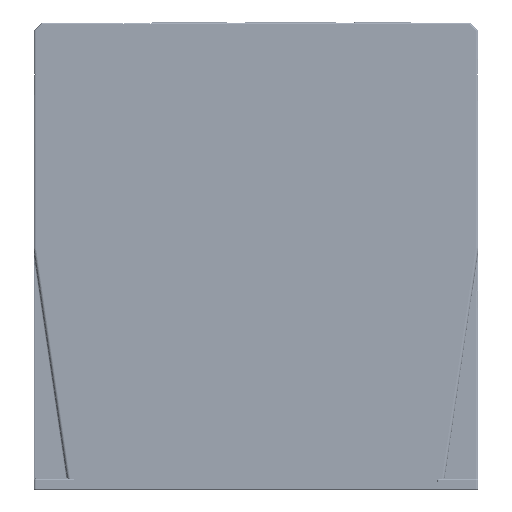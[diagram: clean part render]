
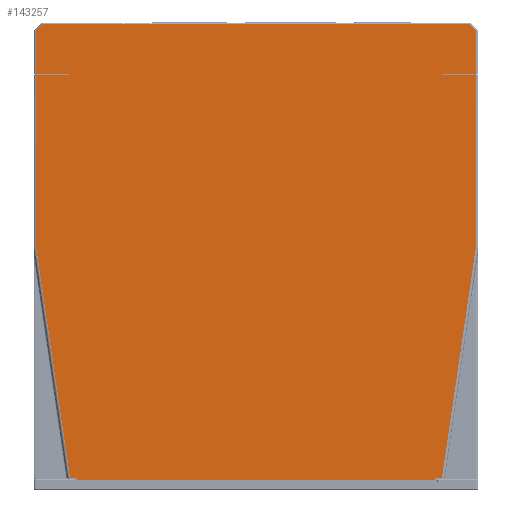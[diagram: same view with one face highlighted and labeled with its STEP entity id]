
A CAD part, left-side view. The second image highlights one B-rep face of the part: STEP entity #143257.
In plain terms, the highlighted planar face has unit normal (-1, 0, 0).
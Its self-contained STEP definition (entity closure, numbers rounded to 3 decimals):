
#1703=CARTESIAN_POINT('',(-167.072,214.156,50.608));
#1704=VERTEX_POINT('',#1703);
#1713=CARTESIAN_POINT('',(-167.072,214.156,51.108));
#1714=VERTEX_POINT('',#1713);
#1715=CARTESIAN_POINT('',(-167.072,214.156,51.108));
#1716=DIRECTION('',(0.0,0.0,-1.0));
#1717=VECTOR('',#1716,0.5);
#1718=LINE('',#1715,#1717);
#1719=EDGE_CURVE('',#1714,#1704,#1718,.T.);
#2995=CARTESIAN_POINT('',(-167.072,78.446,50.608));
#2996=VERTEX_POINT('',#2995);
#3011=CARTESIAN_POINT('',(-167.072,78.446,51.108));
#3012=VERTEX_POINT('',#3011);
#3019=CARTESIAN_POINT('',(-167.072,78.446,51.108));
#3020=DIRECTION('',(0.0,0.0,-1.0));
#3021=VECTOR('',#3020,0.5);
#3022=LINE('',#3019,#3021);
#3023=EDGE_CURVE('',#3012,#2996,#3022,.T.);
#9160=CARTESIAN_POINT('',(-167.072,226.156,51.108));
#9161=VERTEX_POINT('',#9160);
#9162=CARTESIAN_POINT('',(-167.072,226.156,51.108));
#9163=DIRECTION('',(0.0,-1.0,0.0));
#9164=VECTOR('',#9163,12.);
#9165=LINE('',#9162,#9164);
#9166=EDGE_CURVE('',#9161,#1714,#9165,.T.);
#9327=CARTESIAN_POINT('',(-167.072,66.156,51.108));
#9328=VERTEX_POINT('',#9327);
#9336=CARTESIAN_POINT('',(-167.072,78.446,51.108));
#9337=DIRECTION('',(0.0,-1.0,0.0));
#9338=VECTOR('',#9337,12.29);
#9339=LINE('',#9336,#9338);
#9340=EDGE_CURVE('',#3012,#9328,#9339,.T.);
#124274=CARTESIAN_POINT('',(-167.072,68.363,69.108));
#124275=VERTEX_POINT('',#124274);
#124283=CARTESIAN_POINT('',(-167.072,66.156,66.901));
#124284=VERTEX_POINT('',#124283);
#124285=CARTESIAN_POINT('',(-167.072,68.363,69.108));
#124286=DIRECTION('',(0.0,-0.707,-0.707));
#124287=VECTOR('',#124286,3.121);
#124288=LINE('',#124285,#124287);
#124289=EDGE_CURVE('',#124275,#124284,#124288,.T.);
#124586=CARTESIAN_POINT('',(-167.072,184.406,69.108));
#124587=VERTEX_POINT('',#124586);
#124595=CARTESIAN_POINT('',(-167.072,184.406,69.108));
#124596=DIRECTION('',(0.0,-1.0,0.0));
#124597=VECTOR('',#124596,116.043);
#124598=LINE('',#124595,#124597);
#124599=EDGE_CURVE('',#124587,#124275,#124598,.T.);
#127047=CARTESIAN_POINT('',(-167.072,194.051,69.108));
#127048=VERTEX_POINT('',#127047);
#127072=CARTESIAN_POINT('',(-167.072,184.906,69.108));
#127073=VERTEX_POINT('',#127072);
#127074=CARTESIAN_POINT('',(-167.072,194.051,69.108));
#127075=DIRECTION('',(0.0,-1.0,0.0));
#127076=VECTOR('',#127075,9.145);
#127077=LINE('',#127074,#127076);
#127078=EDGE_CURVE('',#127048,#127073,#127077,.T.);
#127540=CARTESIAN_POINT('',(-167.072,223.949,69.108));
#127541=VERTEX_POINT('',#127540);
#127673=CARTESIAN_POINT('',(-167.072,226.156,66.901));
#127674=VERTEX_POINT('',#127673);
#127762=CARTESIAN_POINT('',(-167.072,226.156,66.901));
#127763=DIRECTION('',(0.0,-0.707,0.707));
#127764=VECTOR('',#127763,3.121);
#127765=LINE('',#127762,#127764);
#127766=EDGE_CURVE('',#127674,#127541,#127765,.T.);
#127776=CARTESIAN_POINT('',(-167.072,194.656,69.108));
#127777=VERTEX_POINT('',#127776);
#127794=CARTESIAN_POINT('',(-167.072,223.949,69.108));
#127795=DIRECTION('',(0.0,-1.0,0.0));
#127796=VECTOR('',#127795,29.293);
#127797=LINE('',#127794,#127796);
#127798=EDGE_CURVE('',#127541,#127777,#127797,.T.);
#139711=CARTESIAN_POINT('',(-167.072,194.051,69.108));
#139712=DIRECTION('',(0.0,1.0,0.0));
#139713=VECTOR('',#139712,0.605);
#139714=LINE('',#139711,#139713);
#139715=EDGE_CURVE('',#127048,#127777,#139714,.T.);
#139743=CARTESIAN_POINT('',(-167.072,184.406,69.108));
#139744=DIRECTION('',(0.0,1.0,0.0));
#139745=VECTOR('',#139744,0.5);
#139746=LINE('',#139743,#139745);
#139747=EDGE_CURVE('',#124587,#127073,#139746,.T.);
#140286=CARTESIAN_POINT('',(-167.072,226.156,51.108));
#140287=DIRECTION('',(0.0,0.0,1.0));
#140288=VECTOR('',#140287,15.793);
#140289=LINE('',#140286,#140288);
#140290=EDGE_CURVE('',#9161,#127674,#140289,.T.);
#140301=CARTESIAN_POINT('',(-167.072,66.156,66.901));
#140302=DIRECTION('',(0.0,0.0,-1.0));
#140303=VECTOR('',#140302,15.793);
#140304=LINE('',#140301,#140303);
#140305=EDGE_CURVE('',#124284,#9328,#140304,.T.);
#143097=CARTESIAN_POINT('',(-167.072,226.156,50.608));
#143098=VERTEX_POINT('',#143097);
#143106=CARTESIAN_POINT('',(-167.072,226.156,50.608));
#143107=DIRECTION('',(0.0,-1.0,0.0));
#143108=VECTOR('',#143107,12.);
#143109=LINE('',#143106,#143108);
#143110=EDGE_CURVE('',#143098,#1704,#143109,.T.);
#143158=CARTESIAN_POINT('',(-167.072,146.156,-23.392));
#143159=DIRECTION('',(-1.0,0.0,0.0));
#143160=DIRECTION('',(0.0,-1.0,0.0));
#143161=AXIS2_PLACEMENT_3D('',#143158,#143159,#143160);
#143162=PLANE('',#143161);
#143163=ORIENTED_EDGE('',*,*,#143110,.F.);
#143164=CARTESIAN_POINT('',(-167.072,226.156,-12.319));
#143165=VERTEX_POINT('',#143164);
#143166=CARTESIAN_POINT('',(-167.072,226.156,-12.319));
#143167=DIRECTION('',(0.0,0.0,1.0));
#143168=VECTOR('',#143167,62.927);
#143169=LINE('',#143166,#143168);
#143170=EDGE_CURVE('',#143165,#143098,#143169,.T.);
#143171=ORIENTED_EDGE('',*,*,#143170,.F.);
#143172=CARTESIAN_POINT('',(-167.072,213.866,-95.892));
#143173=VERTEX_POINT('',#143172);
#143174=CARTESIAN_POINT('',(-167.072,213.866,-95.892));
#143175=DIRECTION('',(0.0,0.145,0.989));
#143176=VECTOR('',#143175,84.472);
#143177=LINE('',#143174,#143176);
#143178=EDGE_CURVE('',#143173,#143165,#143177,.T.);
#143179=ORIENTED_EDGE('',*,*,#143178,.F.);
#143180=CARTESIAN_POINT('',(-167.072,211.355,-95.892));
#143181=VERTEX_POINT('',#143180);
#143182=CARTESIAN_POINT('',(-167.072,213.866,-95.892));
#143183=DIRECTION('',(0.0,-1.0,0.0));
#143184=VECTOR('',#143183,2.511);
#143185=LINE('',#143182,#143184);
#143186=EDGE_CURVE('',#143173,#143181,#143185,.T.);
#143187=ORIENTED_EDGE('',*,*,#143186,.T.);
#143188=CARTESIAN_POINT('',(-167.072,211.355,-96.892));
#143189=VERTEX_POINT('',#143188);
#143190=CARTESIAN_POINT('',(-167.072,211.355,-95.892));
#143191=DIRECTION('',(0.0,0.0,-1.0));
#143192=VECTOR('',#143191,1.);
#143193=LINE('',#143190,#143192);
#143194=EDGE_CURVE('',#143181,#143189,#143193,.T.);
#143195=ORIENTED_EDGE('',*,*,#143194,.T.);
#143196=CARTESIAN_POINT('',(-167.072,80.956,-96.892));
#143197=VERTEX_POINT('',#143196);
#143198=CARTESIAN_POINT('',(-167.072,211.355,-96.892));
#143199=DIRECTION('',(0.0,-1.0,0.0));
#143200=VECTOR('',#143199,130.399);
#143201=LINE('',#143198,#143200);
#143202=EDGE_CURVE('',#143189,#143197,#143201,.T.);
#143203=ORIENTED_EDGE('',*,*,#143202,.T.);
#143204=CARTESIAN_POINT('',(-167.072,80.956,-95.892));
#143205=VERTEX_POINT('',#143204);
#143206=CARTESIAN_POINT('',(-167.072,80.956,-96.892));
#143207=DIRECTION('',(0.0,0.0,1.0));
#143208=VECTOR('',#143207,1.);
#143209=LINE('',#143206,#143208);
#143210=EDGE_CURVE('',#143197,#143205,#143209,.T.);
#143211=ORIENTED_EDGE('',*,*,#143210,.T.);
#143212=CARTESIAN_POINT('',(-167.072,78.446,-95.892));
#143213=VERTEX_POINT('',#143212);
#143214=CARTESIAN_POINT('',(-167.072,80.956,-95.892));
#143215=DIRECTION('',(0.0,-1.0,0.0));
#143216=VECTOR('',#143215,2.51);
#143217=LINE('',#143214,#143216);
#143218=EDGE_CURVE('',#143205,#143213,#143217,.T.);
#143219=ORIENTED_EDGE('',*,*,#143218,.T.);
#143220=CARTESIAN_POINT('',(-167.072,66.156,-12.319));
#143221=VERTEX_POINT('',#143220);
#143222=CARTESIAN_POINT('',(-167.072,66.156,-12.319));
#143223=DIRECTION('',(0.0,0.145,-0.989));
#143224=VECTOR('',#143223,84.472);
#143225=LINE('',#143222,#143224);
#143226=EDGE_CURVE('',#143221,#143213,#143225,.T.);
#143227=ORIENTED_EDGE('',*,*,#143226,.F.);
#143228=CARTESIAN_POINT('',(-167.072,66.156,50.608));
#143229=VERTEX_POINT('',#143228);
#143230=CARTESIAN_POINT('',(-167.072,66.156,50.608));
#143231=DIRECTION('',(0.0,0.0,-1.0));
#143232=VECTOR('',#143231,62.927);
#143233=LINE('',#143230,#143232);
#143234=EDGE_CURVE('',#143229,#143221,#143233,.T.);
#143235=ORIENTED_EDGE('',*,*,#143234,.F.);
#143236=CARTESIAN_POINT('',(-167.072,78.446,50.608));
#143237=DIRECTION('',(0.0,-1.0,0.0));
#143238=VECTOR('',#143237,12.29);
#143239=LINE('',#143236,#143238);
#143240=EDGE_CURVE('',#2996,#143229,#143239,.T.);
#143241=ORIENTED_EDGE('',*,*,#143240,.F.);
#143242=ORIENTED_EDGE('',*,*,#3023,.F.);
#143243=ORIENTED_EDGE('',*,*,#9340,.T.);
#143244=ORIENTED_EDGE('',*,*,#140305,.F.);
#143245=ORIENTED_EDGE('',*,*,#124289,.F.);
#143246=ORIENTED_EDGE('',*,*,#124599,.F.);
#143247=ORIENTED_EDGE('',*,*,#139747,.T.);
#143248=ORIENTED_EDGE('',*,*,#127078,.F.);
#143249=ORIENTED_EDGE('',*,*,#139715,.T.);
#143250=ORIENTED_EDGE('',*,*,#127798,.F.);
#143251=ORIENTED_EDGE('',*,*,#127766,.F.);
#143252=ORIENTED_EDGE('',*,*,#140290,.F.);
#143253=ORIENTED_EDGE('',*,*,#9166,.T.);
#143254=ORIENTED_EDGE('',*,*,#1719,.T.);
#143255=EDGE_LOOP('',(#143163,#143171,#143179,#143187,#143195,#143203,#143211,#143219,#143227,#143235,#143241,#143242,#143243,#143244,#143245,#143246,#143247,#143248,#143249,#143250,#143251,#143252,#143253,#143254));
#143256=FACE_OUTER_BOUND('',#143255,.T.);
#143257=ADVANCED_FACE('',(#143256),#143162,.T.);
